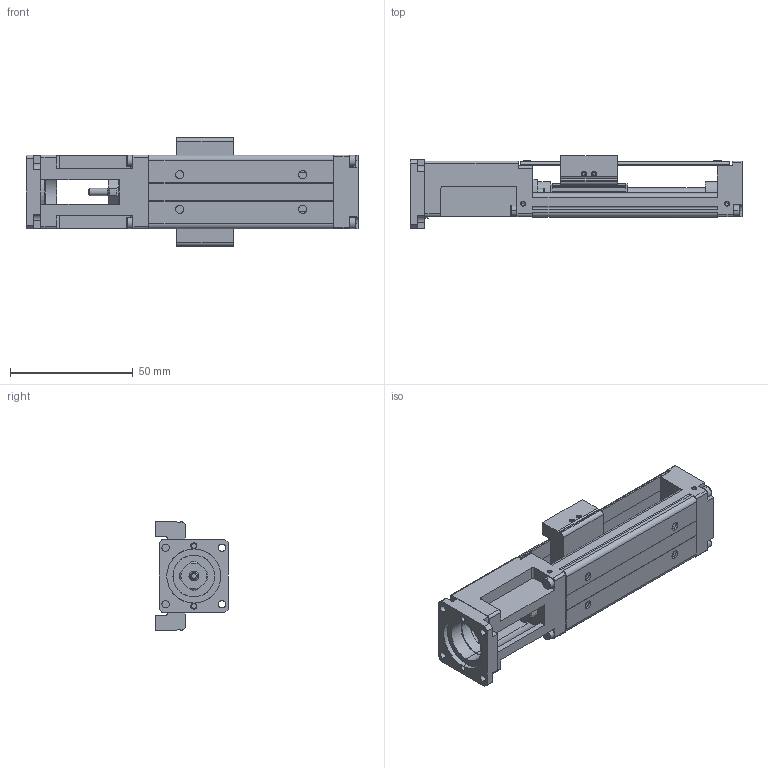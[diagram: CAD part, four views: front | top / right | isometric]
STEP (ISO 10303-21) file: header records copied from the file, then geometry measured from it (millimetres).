
FILE_DESCRIPTION (( 'STEP AP203' ), '1' );
FILE_NAME ('PA-15-75.STEP', '2010-06-10T13:11:47', ( 'render' ), ( '' ), 'SwSTEP 2.0', 'SolidWorks 2009', '' );
FILE_SCHEMA (( 'CONFIG_CONTROL_DESIGN' ));
Length unit declared in the file: millimetre
Products named in the file (1): PA-15-75
Bounding box: 135 x 29.5 x 44 mm (x, y, z)
Volume: 54344.5 mm3; surface area: 34082.4 mm2
Topology: 5 solids, 5 shells, 651 faces, 1697 edges, 1069 vertices
Faces by surface type: plane 303, cylinder 226, cone 110, bspline 12
Entity records: 19951 total; most frequent: CARTESIAN_POINT 3730, DIRECTION 3430, ORIENTED_EDGE 3306, EDGE_CURVE 1653, AXIS2_PLACEMENT_3D 1175, LINE 1080, VECTOR 1080, VERTEX_POINT 1069
